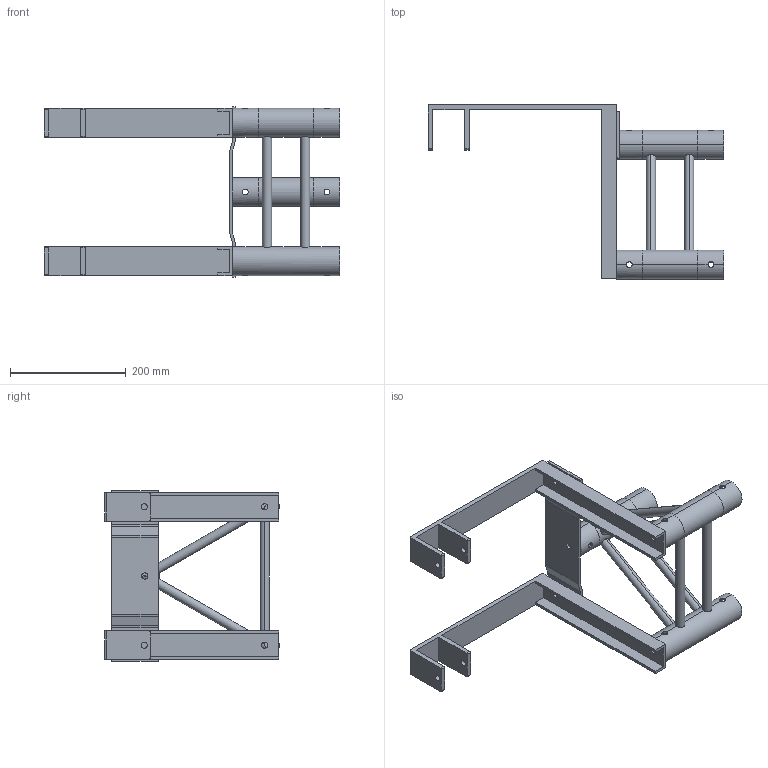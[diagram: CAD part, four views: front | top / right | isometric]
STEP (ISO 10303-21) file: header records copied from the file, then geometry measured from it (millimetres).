
FILE_DESCRIPTION (( 'STEP AP203' ), '1' );
FILE_NAME ('L290CXA.STEP', '2009-10-23T14:52:06', ( 'CEDIA' ), ( 'CEDIA INDUSTRIE' ), 'SwSTEP 2.0', 'SolidWorks 2009', '' );
FILE_SCHEMA (( 'CONFIG_CONTROL_DESIGN' ));
Length unit declared in the file: millimetre
Products named in the file (1): L290CXA
Bounding box: 511 x 301 x 295 mm (x, y, z)
Volume: 1114326.4 mm3; surface area: 540903.7 mm2
Topology: 1 solids, 13 shells, 247 faces, 632 edges, 390 vertices
Faces by surface type: cylinder 180, plane 67
Entity records: 13953 total; most frequent: CARTESIAN_POINT 8138, ORIENTED_EDGE 1264, DIRECTION 1054, EDGE_CURVE 632, VERTEX_POINT 390, AXIS2_PLACEMENT_3D 358, VECTOR 338, LINE 338
